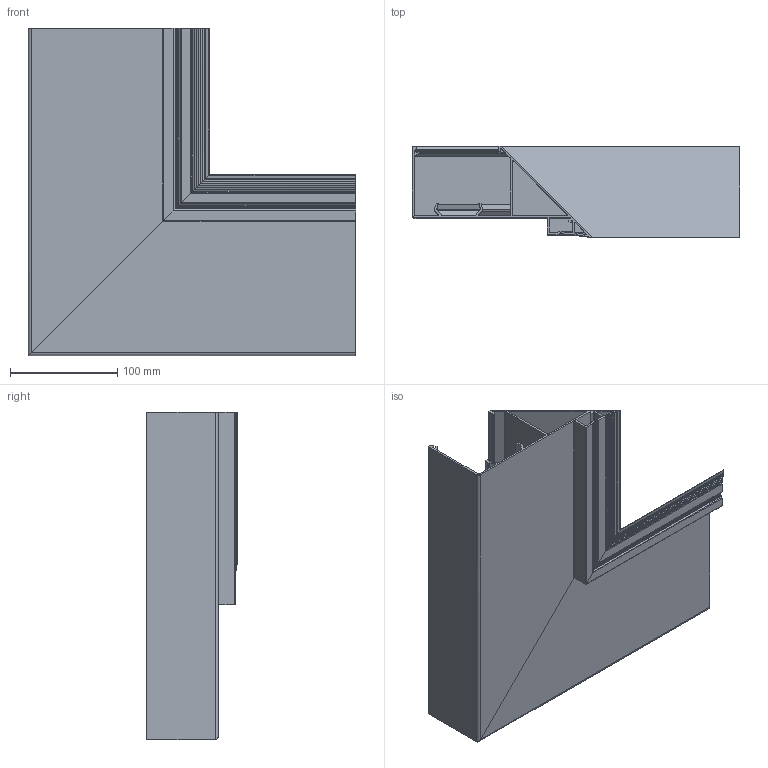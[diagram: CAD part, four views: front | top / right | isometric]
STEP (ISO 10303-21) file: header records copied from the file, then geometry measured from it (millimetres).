
FILE_DESCRIPTION (( 'STEP AP203' ), '1' );
FILE_NAME ('TROV 2 KNIFE EDGE COVE COFFER (INSIDE) CORNER.STEP', '2023-05-24T20:50:01', ( '' ), ( '' ), 'SwSTEP 2.0', 'SolidWorks 2022', '' );
FILE_SCHEMA (( 'CONFIG_CONTROL_DESIGN' ));
Length unit declared in the file: millimetre
Products named in the file (3): BAS-000026-02_BAS-000026-00; TROV 2 KNIFE EDGE COVE COFFER (INSIDE) CORNER; BAS-000026-01_BAS-000026-00
Assembly tree (2 placements, depth 2):
  TROV 2 KNIFE EDGE COVE COFFER (INSIDE) CORNER
    BAS-000026-01_BAS-000026-00
    BAS-000026-02_BAS-000026-00
Bounding box: 304.8 x 85.43 x 304.8 mm (x, y, z)
Volume: 430439.7 mm3; surface area: 425916.3 mm2
Topology: 2 solids, 2 shells, 258 faces, 758 edges, 504 vertices
Faces by surface type: cylinder 142, plane 116
Entity records: 8855 total; most frequent: CARTESIAN_POINT 1957, ORIENTED_EDGE 1516, DIRECTION 1276, EDGE_CURVE 758, VERTEX_POINT 504, VECTOR 478, LINE 478, AXIS2_PLACEMENT_3D 399
